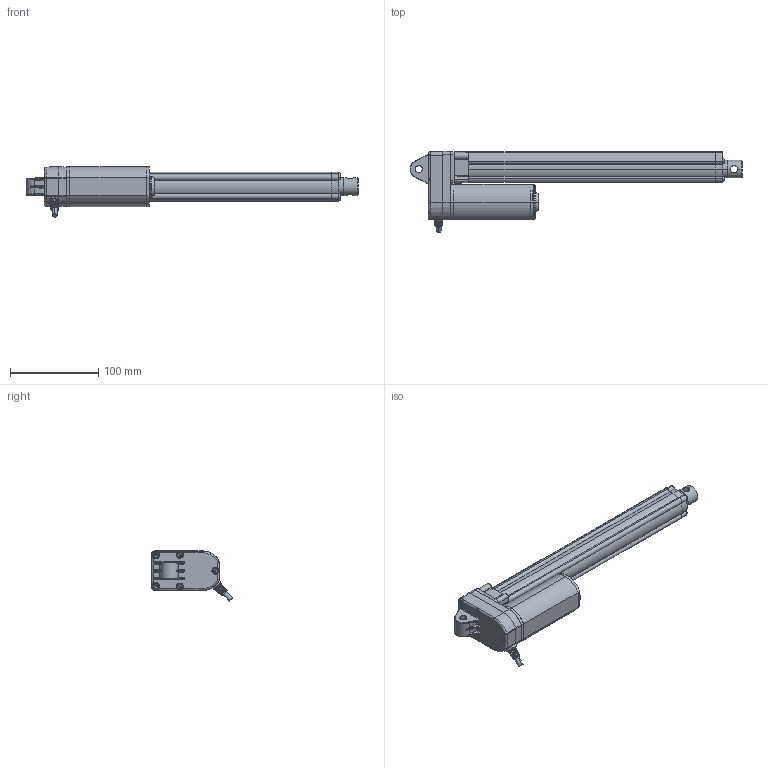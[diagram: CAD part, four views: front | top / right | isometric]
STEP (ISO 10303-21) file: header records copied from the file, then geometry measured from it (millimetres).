
FILE_DESCRIPTION(('STEP AP203'),'1');
FILE_NAME('dj809d1250358d0f011r01111111a01230619193117.stp','2025-06-19T19:31:21',('TraceParts'),('TraceParts S.A.'),'Spatial InterOp 3D',' ',' ');
FILE_SCHEMA(('CONFIG_CONTROL_DESIGN'));
Length unit declared in the file: millimetre
Products named in the file (1): 1
Bounding box: 377.11 x 92.14 x 56.99 mm (x, y, z)
Volume: 537582 mm3; surface area: 72336.5 mm2
Topology: 1 solids, 1 shells, 743 faces, 1942 edges, 1207 vertices
Faces by surface type: plane 297, cylinder 195, bspline 121, torus 74, cone 45, sphere 11
Entity records: 29262 total; most frequent: CARTESIAN_POINT 11986, ORIENTED_EDGE 3852, DIRECTION 3371, EDGE_CURVE 1926, AXIS2_PLACEMENT_3D 1283, VERTEX_POINT 1207, LINE 805, VECTOR 805
